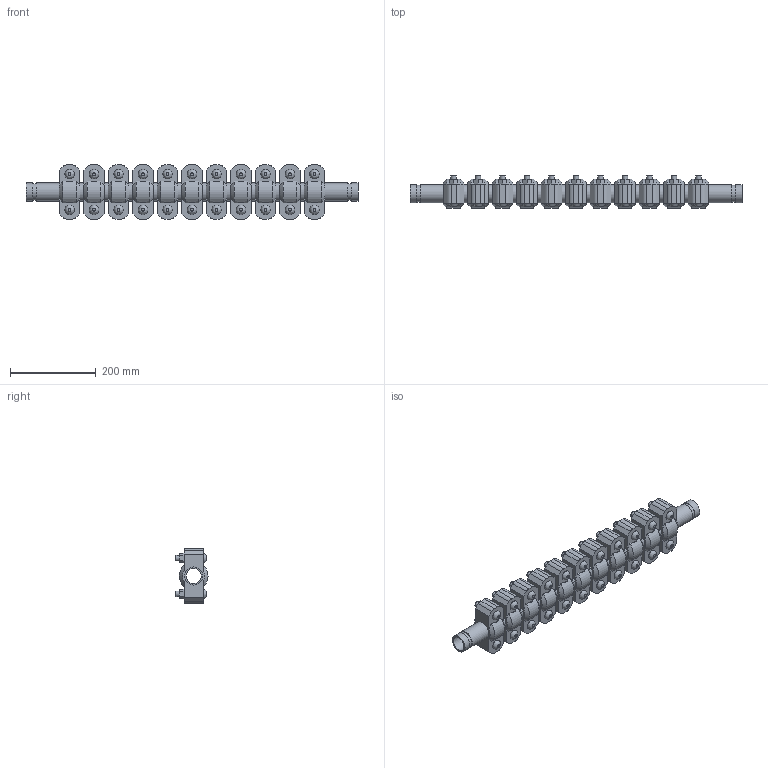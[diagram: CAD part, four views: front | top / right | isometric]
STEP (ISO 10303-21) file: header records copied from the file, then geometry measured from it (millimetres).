
FILE_DESCRIPTION(/* description */ ('VIC EXPANSION JOINT 11 COUPLINGS COMPRESSED STYLE 155 (OGS)','CAx-IF Rec.Pracs.---Representation and Presentation of Product Manufacturing Information (PMI)---4.0---2014-10-13'),/* implementation_level */ '2;1');
FILE_NAME(/* name */ 'C:\Users\kkamble\AppData\Roaming\Autodesk\ApplicationPlugins\Victaulic.Temp\A956\Victaulic_IPS_Expansion Joint_Compressed_11 Couplings_Style 155 (OGS)_1.25 (32).stp',/* time_stamp */ '2021-06-27T00:18:32+02:00',/* author */ ('kkamble'),/* organization */ ('Victaulic'),/* preprocessor_version */ 'ST-DEVELOPER v17.2',/* originating_system */ 'Autodesk Inventor 2019',/* authorisation */ '');
FILE_SCHEMA (('AP242_MANAGED_MODEL_BASED_3D_ENGINEERING_MIM_LF { 1 0 10303 442 1 1 4 }'));
Length unit declared in the file: inch
Products named in the file (4): 155-01.25; Nipple-01.25; Nipple-01.25_1; 077-01.25
Assembly tree (23 placements, depth 2):
  155-01.25
    Nipple-01.25  x2
    Nipple-01.25_1  x10
    077-01.25  x11
Bounding box: 774.7 x 74.93 x 127 mm (x, y, z)
Volume: 2828624 mm3; surface area: 656864.3 mm2
Topology: 23 solids, 45 shells, 771 faces, 1889 edges, 1322 vertices
Faces by surface type: plane 446, cylinder 259, cone 44, bspline 22
Full cylindrical faces by diameter (mm): 12.7 x44, 14.605 x22, 35.052 x12, 38.989 x24, 42.164 x47
Entity records: 2971 total; most frequent: CARTESIAN_POINT 553, DIRECTION 491, ORIENTED_EDGE 398, EDGE_CURVE 199, AXIS2_PLACEMENT_3D 198, VERTEX_POINT 142, EDGE_LOOP 105, LINE 95
